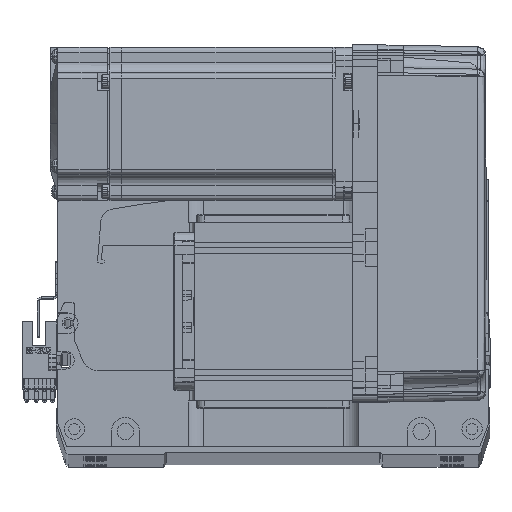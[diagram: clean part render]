
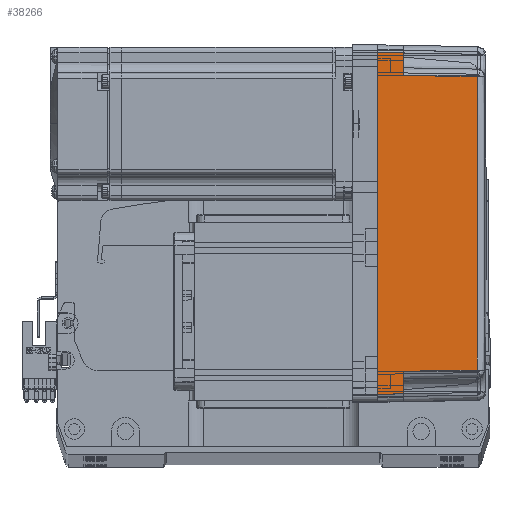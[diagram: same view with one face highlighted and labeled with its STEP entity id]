
A CAD part, top view. The second image highlights one B-rep face of the part: STEP entity #38266.
In plain terms, the highlighted planar face has unit normal (0.018, 0, 1) as drawn and (0, -1, 0.017) by its records, which use the part's own axes.
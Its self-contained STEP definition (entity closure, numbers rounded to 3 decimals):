
#26 = LINE ( 'NONE', #15335, #55856 ) ;
#393 = CARTESIAN_POINT ( 'NONE',  ( -58., -35.825, 10. ) ) ;
#936 = DIRECTION ( 'NONE',  ( -1., 0., 0. ) ) ;
#1528 = DIRECTION ( 'NONE',  ( 0., -1., 0.017 ) ) ;
#1979 = ORIENTED_EDGE ( 'NONE', *, *, #35303, .T. ) ;
#2743 = DIRECTION ( 'NONE',  ( -0.017, 0.017, 1. ) ) ;
#2895 = LINE ( 'NONE', #39081, #64674 ) ;
#4763 = VECTOR ( 'NONE', #2743, 1000. ) ;
#6500 = AXIS2_PLACEMENT_3D ( 'NONE', #23705, #1528, #23246 ) ;
#9437 = VERTEX_POINT ( 'NONE', #35175 ) ;
#9747 = CARTESIAN_POINT ( 'NONE',  ( -66.826, -35.825, 10. ) ) ;
#11089 = VECTOR ( 'NONE', #936, 1000. ) ;
#11119 = EDGE_CURVE ( 'NONE', #14202, #13264, #21269, .T. ) ;
#13264 = VERTEX_POINT ( 'NONE', #62224 ) ;
#13569 = CARTESIAN_POINT ( 'NONE',  ( 67., -36., 0. ) ) ;
#14202 = VERTEX_POINT ( 'NONE', #46674 ) ;
#15174 = VECTOR ( 'NONE', #48588, 1000. ) ;
#15335 = CARTESIAN_POINT ( 'NONE',  ( 58., -35.825, 10. ) ) ;
#16211 = EDGE_CURVE ( 'NONE', #26213, #34761, #2895, .T. ) ;
#18884 = ORIENTED_EDGE ( 'NONE', *, *, #58497, .F. ) ;
#18935 = CARTESIAN_POINT ( 'NONE',  ( 57.495, -35.32, 38.985 ) ) ;
#19103 = LINE ( 'NONE', #13569, #4763 ) ;
#19312 = VECTOR ( 'NONE', #68313, 1000. ) ;
#21269 = LINE ( 'NONE', #32812, #11089 ) ;
#23246 = DIRECTION ( 'NONE',  ( 0., -0.017, -1. ) ) ;
#23705 = CARTESIAN_POINT ( 'NONE',  ( 70., -36., 0. ) ) ;
#24498 = CARTESIAN_POINT ( 'NONE',  ( -57.495, -35.32, 38.985 ) ) ;
#25016 = LINE ( 'NONE', #52877, #37715 ) ;
#26213 = VERTEX_POINT ( 'NONE', #41661 ) ;
#27549 = VERTEX_POINT ( 'NONE', #393 ) ;
#28420 = ORIENTED_EDGE ( 'NONE', *, *, #34155, .T. ) ;
#28808 = ORIENTED_EDGE ( 'NONE', *, *, #68078, .T. ) ;
#30213 = CARTESIAN_POINT ( 'NONE',  ( -57.495, -35.32, 38.985 ) ) ;
#30346 = EDGE_CURVE ( 'NONE', #9437, #58116, #39781, .T. ) ;
#32812 = CARTESIAN_POINT ( 'NONE',  ( 70., -35.825, 10. ) ) ;
#33352 = VERTEX_POINT ( 'NONE', #9747 ) ;
#33778 = LINE ( 'NONE', #64245, #15174 ) ;
#34155 = EDGE_CURVE ( 'NONE', #58116, #27549, #62475, .T. ) ;
#34554 = ORIENTED_EDGE ( 'NONE', *, *, #49242, .T. ) ;
#34761 = VERTEX_POINT ( 'NONE', #41611 ) ;
#35175 = CARTESIAN_POINT ( 'NONE',  ( 57.495, -35.32, 38.985 ) ) ;
#35303 = EDGE_CURVE ( 'NONE', #27549, #33352, #25016, .T. ) ;
#35430 = CARTESIAN_POINT ( 'NONE',  ( -19.165, -35.316, 39.181 ) ) ;
#36706 = ORIENTED_EDGE ( 'NONE', *, *, #11119, .T. ) ;
#37715 = VECTOR ( 'NONE', #64489, 1000. ) ;
#38266 = ADVANCED_FACE ( 'NONE', ( #50848 ), #50888, .T. ) ;
#38703 = EDGE_LOOP ( 'NONE', ( #34554, #36706, #28808, #43793, #28420, #1979, #18884, #61192 ) ) ;
#39081 = CARTESIAN_POINT ( 'NONE',  ( 0., -36., 0. ) ) ;
#39781 = B_SPLINE_CURVE_WITH_KNOTS ( 'NONE', 3,
 ( #18935, #51547, #35430, #30213 ),
 .UNSPECIFIED., .F., .F.,
 ( 4, 4 ),
 ( 0., 1. ),
 .UNSPECIFIED. ) ;
#41611 = CARTESIAN_POINT ( 'NONE',  ( -67., -36., 0. ) ) ;
#41661 = CARTESIAN_POINT ( 'NONE',  ( 67., -36., 0. ) ) ;
#43793 = ORIENTED_EDGE ( 'NONE', *, *, #30346, .T. ) ;
#43829 = DIRECTION ( 'NONE',  ( -1., 0., 0. ) ) ;
#46674 = CARTESIAN_POINT ( 'NONE',  ( 66.826, -35.825, 10. ) ) ;
#48588 = DIRECTION ( 'NONE',  ( 0.017, 0.017, 1. ) ) ;
#49242 = EDGE_CURVE ( 'NONE', #26213, #14202, #19103, .T. ) ;
#50848 = FACE_OUTER_BOUND ( 'NONE', #38703, .T. ) ;
#50888 = PLANE ( 'NONE',  #6500 ) ;
#51547 = CARTESIAN_POINT ( 'NONE',  ( 19.165, -35.316, 39.181 ) ) ;
#52877 = CARTESIAN_POINT ( 'NONE',  ( 70., -35.825, 10. ) ) ;
#54817 = CARTESIAN_POINT ( 'NONE',  ( -57.495, -35.32, 38.985 ) ) ;
#55856 = VECTOR ( 'NONE', #70012, 1000. ) ;
#58116 = VERTEX_POINT ( 'NONE', #54817 ) ;
#58497 = EDGE_CURVE ( 'NONE', #34761, #33352, #33778, .T. ) ;
#61192 = ORIENTED_EDGE ( 'NONE', *, *, #16211, .F. ) ;
#62224 = CARTESIAN_POINT ( 'NONE',  ( 58., -35.825, 10. ) ) ;
#62475 = LINE ( 'NONE', #24498, #19312 ) ;
#64245 = CARTESIAN_POINT ( 'NONE',  ( -66.959, -35.958, 2.39 ) ) ;
#64489 = DIRECTION ( 'NONE',  ( -1., 0., 0. ) ) ;
#64674 = VECTOR ( 'NONE', #43829, 1000. ) ;
#68078 = EDGE_CURVE ( 'NONE', #13264, #9437, #26, .T. ) ;
#68313 = DIRECTION ( 'NONE',  ( -0.017, -0.017, -1. ) ) ;
#70012 = DIRECTION ( 'NONE',  ( -0.017, 0.017, 1. ) ) ;
